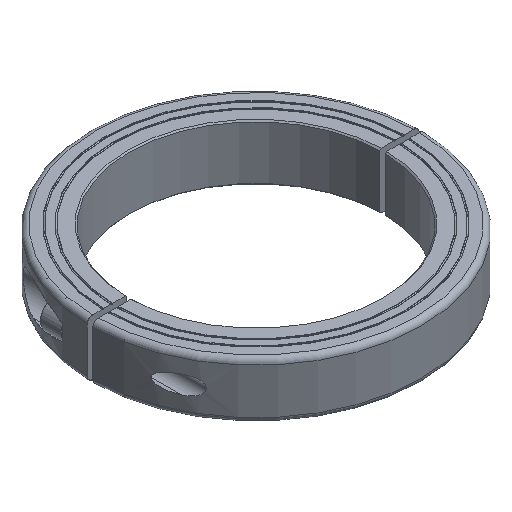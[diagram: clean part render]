
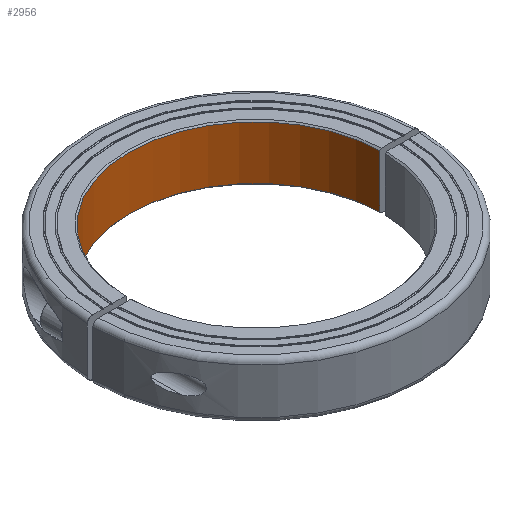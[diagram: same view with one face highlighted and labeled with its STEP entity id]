
A CAD part, isometric view. The second image highlights one B-rep face of the part: STEP entity #2956.
In plain terms, the highlighted cylindrical face has radius 72.5 mm (diameter 145 mm), a partial arc.
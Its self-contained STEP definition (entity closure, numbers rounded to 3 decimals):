
#2241=CARTESIAN_POINT('',(-72.483,1.585,
-31.25));
#2246=DIRECTION('',(0.,0.,1.));
#2247=VECTOR('',#2246,30.5);
#2248=CARTESIAN_POINT('',(-72.483,1.585,
-31.25));
#2249=LINE('',#2248,#2247);
#2253=CARTESIAN_POINT('',(-72.483,1.585,
-0.75));
#2313=DIRECTION('',(0.,0.,-1.));
#2314=VECTOR('',#2313,30.5);
#2315=CARTESIAN_POINT('',(72.483,1.585,
-0.75));
#2316=LINE('',#2315,#2314);
#2320=CARTESIAN_POINT('',(72.483,1.585,-31.25));
#2391=CARTESIAN_POINT('',(72.483,1.585,
-0.75));
#2406=CARTESIAN_POINT('',(0.,0.,-0.75));
#2407=DIRECTION('',(0.,0.,1.));
#2408=DIRECTION('',(1.,0.022,0.));
#2409=AXIS2_PLACEMENT_3D('',#2406,#2407,#2408);
#2446=CARTESIAN_POINT('',(0.,0.,-31.25));
#2447=DIRECTION('',(0.,0.,-1.));
#2448=DIRECTION('',(-1.,0.022,0.));
#2449=AXIS2_PLACEMENT_3D('',#2446,#2447,#2448);
#2710=VERTEX_POINT('',#2241);
#2712=VERTEX_POINT('',#2253);
#2727=VERTEX_POINT('',#2320);
#2741=VERTEX_POINT('',#2391);
#2943=CARTESIAN_POINT('',(0.,0.,-0.75));
#2944=DIRECTION('',(0.,0.,-1.));
#2945=DIRECTION('',(-1.,0.,0.));
#2946=AXIS2_PLACEMENT_3D('',#2943,#2944,#2945);
#2947=CYLINDRICAL_SURFACE('',#2946,72.5);
#2948=ORIENTED_EDGE('',*,*,#2897,.F.);
#2950=ORIENTED_EDGE('',*,*,#2949,.T.);
#2951=ORIENTED_EDGE('',*,*,#2814,.F.);
#2953=ORIENTED_EDGE('',*,*,#2952,.T.);
#2954=EDGE_LOOP('',(#2948,#2950,#2951,#2953));
#2955=FACE_OUTER_BOUND('',#2954,.F.);
#2410=CIRCLE('',#2409,72.5);
#2450=CIRCLE('',#2449,72.5);
#2814=EDGE_CURVE('',#2710,#2712,#2249,.T.);
#2897=EDGE_CURVE('',#2741,#2727,#2316,.T.);
#2949=EDGE_CURVE('',#2741,#2712,#2410,.T.);
#2952=EDGE_CURVE('',#2710,#2727,#2450,.T.);
#2956=ADVANCED_FACE('',(#2955),#2947,.T.);
